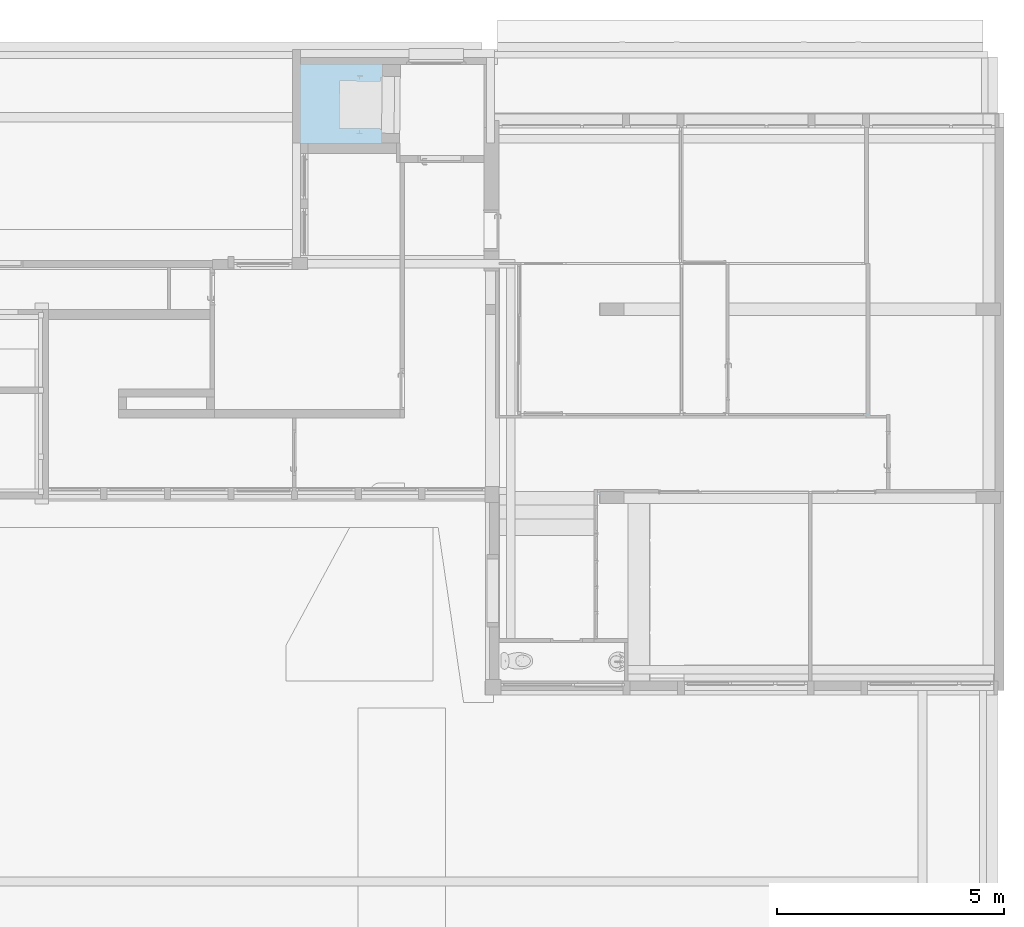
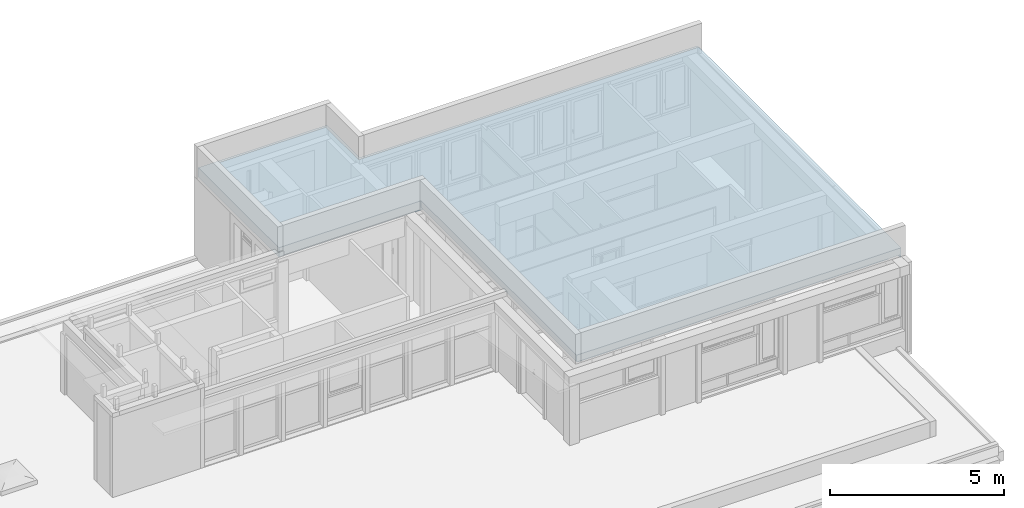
# One storey, part 38 of 49: 1 roof.
"""IFC4 building model written with IfcOpenShell, lengths in metres."""

from ifc_helpers import new_model, entity, si_unit, converted_unit, derived_unit, direction, frame, origin, place, context, subcontext, project, spatial, polygons, material, layer, layer_set, type_object, element, save


model = new_model("IFC4")

# Units and contexts
model_context = context("Model", 3, precision=1e-05, world=origin(), true_north=direction((6.12303176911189e-17, 1.0)))
body_context = subcontext(model_context, "Body", "Model", "MODEL_VIEW")
ifc_project = project(units=[si_unit("LENGTHUNIT", "METRE"), si_unit("AREAUNIT", "SQUARE_METRE"), si_unit("VOLUMEUNIT", "CUBIC_METRE"), converted_unit("PLANEANGLEUNIT", "DEGREE", entity("IfcRatioMeasure", 0.0174532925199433), si_unit("PLANEANGLEUNIT", "RADIAN"), dimensions=[0, 0, 0, 0, 0, 0, 0]), si_unit("MASSUNIT", "GRAM", prefix="KILO"), derived_unit("MASSDENSITYUNIT", [(si_unit("MASSUNIT", "GRAM", prefix="KILO"), 1), (si_unit("LENGTHUNIT", "METRE"), -3)]), derived_unit("MOMENTOFINERTIAUNIT", [(si_unit("LENGTHUNIT", "METRE"), 4)]), si_unit("TIMEUNIT", "SECOND"), si_unit("FREQUENCYUNIT", "HERTZ"), si_unit("THERMODYNAMICTEMPERATUREUNIT", "DEGREE_CELSIUS"), derived_unit("THERMALTRANSMITTANCEUNIT", [(si_unit("MASSUNIT", "GRAM", prefix="KILO"), 1), (si_unit("THERMODYNAMICTEMPERATUREUNIT", "KELVIN"), -1), (si_unit("TIMEUNIT", "SECOND"), -3)]), derived_unit("VOLUMETRICFLOWRATEUNIT", [(si_unit("LENGTHUNIT", "METRE"), 3), (si_unit("TIMEUNIT", "SECOND"), -1)]), si_unit("ELECTRICCURRENTUNIT", "AMPERE"), si_unit("ELECTRICVOLTAGEUNIT", "VOLT"), si_unit("POWERUNIT", "WATT"), si_unit("FORCEUNIT", "NEWTON", prefix="KILO"), si_unit("ILLUMINANCEUNIT", "LUX"), si_unit("LUMINOUSFLUXUNIT", "LUMEN"), si_unit("LUMINOUSINTENSITYUNIT", "CANDELA"), derived_unit("USERDEFINED", [(si_unit("MASSUNIT", "GRAM", prefix="KILO"), -1), (si_unit("LENGTHUNIT", "METRE"), -2), (si_unit("TIMEUNIT", "SECOND"), 3), (si_unit("LUMINOUSFLUXUNIT", "LUMEN"), 1)]), derived_unit("LINEARVELOCITYUNIT", [(si_unit("LENGTHUNIT", "METRE"), 1), (si_unit("TIMEUNIT", "SECOND"), -1)]), si_unit("PRESSUREUNIT", "PASCAL"), derived_unit("USERDEFINED", [(si_unit("LENGTHUNIT", "METRE"), -2), (si_unit("MASSUNIT", "GRAM", prefix="KILO"), 1), (si_unit("TIMEUNIT", "SECOND"), -2)]), derived_unit("LINEARFORCEUNIT", [(si_unit("MASSUNIT", "GRAM", prefix="KILO"), 1), (si_unit("LENGTHUNIT", "METRE"), 1), (si_unit("TIMEUNIT", "SECOND"), -2), (si_unit("LENGTHUNIT", "METRE"), -1)]), derived_unit("PLANARFORCEUNIT", [(si_unit("MASSUNIT", "GRAM", prefix="KILO"), 1), (si_unit("LENGTHUNIT", "METRE"), 1), (si_unit("TIMEUNIT", "SECOND"), -2), (si_unit("LENGTHUNIT", "METRE"), -2)])], contexts=[model_context])

# Site, building, storey
site_placement = place(None, origin())
site = spatial("IfcSite", under=ifc_project, at=site_placement, Name="Default", CompositionType="ELEMENT")
building_placement = place(site_placement, origin())
building = spatial("IfcBuilding", under=site, at=building_placement, Name="HOTEL CONSULAIRE BOULOGNE SUR MER", CompositionType="ELEMENT")
storey_placement = place(building_placement, frame((0.0, 0.0, 6.81974152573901)))
storey = spatial("IfcBuildingStorey", under=building, at=storey_placement, Name="Niveau 2", CompositionType="ELEMENT", Elevation=6.81974152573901)

# Roof
ifc_material_1 = material(Name="Protection humidité", Category="Isolation")
ifc_layer_1 = layer(ifc_material_1, 0.03, Name="Protection humidité", Category="Isolation")
ifc_material_2 = material(Name="Maçonnerie - Isolant", Category="Divers")
ifc_layer_2 = layer(ifc_material_2, 0.1, Name="Maçonnerie - Isolant", Category="Divers")
ifc_material_3 = material(Name="Béton - Béton coulé sur place", Category="Béton")
ifc_layer_3 = layer(ifc_material_3, 0.2, Name="Béton - Béton coulé sur place", Category="Béton")
ifc_layer_set = layer_set([ifc_layer_1, ifc_layer_2, ifc_layer_3], Name="Toit de base:Toit - 200 mm 2")
roof_type = type_object("IfcRoofType", Name="Toit de base:Toit - 200 mm 2", PredefinedType="NOTDEFINED")
roof_placement = place(storey_placement, frame((7.21898026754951, -23.5721980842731, 2.95700000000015)))
element("IfcRoof", 1, at=roof_placement, inside=storey, type_object=roof_type, material=ifc_layer_set, Name="Toit de base:Toit - 200 mm 2", ObjectType="Toit de base:Toit - 200 mm 2", PredefinedType="NOTDEFINED", context=body_context, shape_type="Tessellation", body=[
    polygons([(15.4789556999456, 11.691, 2.16573425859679e-15), (15.4789556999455, 3.92904228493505, 2.16573425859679e-15), (15.4789556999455, 0.0, 2.16573425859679e-15), (15.4396580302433, 0.0, 2.16573425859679e-15), (15.4396580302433, 3.65628827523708, 2.16573425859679e-15), (15.4396580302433, 3.92628827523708, 2.16573425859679e-15), (15.4396580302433, 3.92904228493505, 2.16573425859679e-15), (15.4396580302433, 7.80428827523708, 2.16573425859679e-15), (15.4396580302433, 8.07428827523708, 2.16573425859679e-15), (15.4396580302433, 11.691, 2.16573425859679e-15), (15.1196580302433, 0.0900000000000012, 0.0949999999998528), (15.1196580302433, 0.0900000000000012, 2.16573425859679e-15), (15.1196580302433, 3.65628827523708, 2.16573425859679e-15), (15.1196580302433, 3.65628827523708, 0.0949999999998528), (15.1196580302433, 7.80428827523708, 2.16573425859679e-15), (15.1196580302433, 7.80428827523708, 0.0949999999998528), (15.1196580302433, 3.92628827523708, 0.0949999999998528), (15.1196580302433, 3.92628827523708, 2.16573425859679e-15), (15.1196580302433, 3.96904228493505, 2.16573425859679e-15), (6.49720277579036e-15, 13.5718739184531, 2.16573425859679e-15), (4.27197830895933, 13.5718739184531, 2.16573425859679e-15), (4.27197830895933, 13.4818739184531, 2.16573425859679e-15), (4.27197830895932, 11.9357742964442, 2.16573425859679e-15), (4.18197830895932, 11.9357742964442, 2.16573425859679e-15), (4.18197830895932, 11.601, 2.16573425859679e-15), (8.44209559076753, 11.601, 2.16573425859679e-15), (8.51209559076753, 11.601, 2.16573425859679e-15), (15.1196580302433, 11.601, 2.16573425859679e-15), (15.1196580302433, 8.07428827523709, 2.16573425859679e-15), (12.6330955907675, 8.07428827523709, 2.16573425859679e-15), (12.5430955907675, 8.07428827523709, 2.16573425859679e-15), (9.52809559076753, 8.0742882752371, 2.16573425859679e-15), (9.45809559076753, 8.0742882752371, 2.16573425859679e-15), (8.51209559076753, 8.07428827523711, 2.16573425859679e-15), (8.44209559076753, 8.07428827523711, 2.16573425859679e-15), (6.67074541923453, 8.07428827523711, 2.16573425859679e-15), (6.67074541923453, 7.80428827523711, 2.16573425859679e-15), (8.44209559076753, 7.8042882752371, 2.16573425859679e-15), (8.51209559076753, 7.8042882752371, 2.16573425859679e-15), (9.45809559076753, 7.8042882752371, 2.16573425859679e-15), (9.52809559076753, 7.8042882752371, 2.16573425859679e-15), (12.5430955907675, 7.80428827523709, 2.16573425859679e-15), (12.6330955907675, 7.80428827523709, 2.16573425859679e-15), (12.757376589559, 3.92628827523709, 2.16573425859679e-15), (7.97082682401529, 3.92628827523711, 2.16573425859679e-15), (6.67074541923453, 3.92628827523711, 2.16573425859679e-15), (6.67074541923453, 3.88904228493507, 2.16573425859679e-15), (6.67074541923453, 3.65628827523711, 2.16573425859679e-15), (11.2787067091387, 3.6562882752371, 2.16573425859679e-15), (11.3487067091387, 3.6562882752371, 2.16573425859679e-15), (11.3487067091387, 0.0900000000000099, 2.16573425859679e-15), (11.2787067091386, 0.0900000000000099, 2.16573425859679e-15), (7.30292843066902, 0.0900000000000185, 2.16573425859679e-15), (7.22292843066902, 0.0900000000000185, 2.16573425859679e-15), (4.80796326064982, 0.0900000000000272, 2.16573425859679e-15), (4.80796326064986, 5.54731055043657, 2.16573425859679e-15), (4.80796326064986, 5.59731055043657, 2.16573425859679e-15), (4.80796326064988, 8.92077429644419, 2.16573425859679e-15), (4.80796326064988, 8.93911115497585, 2.16573425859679e-15), (4.46292843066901, 8.93911115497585, 2.16573425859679e-15), (0.0899999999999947, 8.93911115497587, 2.16573425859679e-15), (-1.08286712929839e-15, 8.93911115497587, 2.16573425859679e-15), (-1.08286712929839e-15, 9.00928716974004, 2.16573425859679e-15), (6.49720277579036e-15, 13.4818739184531, 2.16573425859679e-15), (4.27197830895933, 13.5718739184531, 0.330000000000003), (6.49720277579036e-15, 13.5718739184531, 0.330000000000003), (6.49720277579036e-15, 13.4818739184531, 0.330000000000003), (-1.08286712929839e-15, 8.93911115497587, 0.330000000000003), (0.0899999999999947, 8.93911115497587, 0.330000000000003), (4.71796326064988, 8.93911115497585, 0.330000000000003), (4.71796326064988, 8.84911115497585, 0.330000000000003), (4.71796326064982, 2.59888111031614e-14, 0.330000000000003), (4.80796326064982, 2.59888111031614e-14, 0.330000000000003), (15.4789556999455, 0.0, 0.330000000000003), (15.4789556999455, 0.0900000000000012, 0.330000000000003), (15.4789556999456, 11.601, 0.330000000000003), (15.4789556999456, 11.691, 0.330000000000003), (4.36197830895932, 11.691, 0.330000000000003), (4.27197830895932, 11.691, 0.330000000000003), (4.27197830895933, 13.4818739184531, 0.330000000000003), (-1.08286712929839e-15, 8.93911115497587, 0.269999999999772), (4.80796326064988, 8.93911115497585, 0.0949999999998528), (4.71796326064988, 8.93911115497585, 0.0949999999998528), (4.27197830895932, 11.691, 0.0949999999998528), (4.27197830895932, 11.9357742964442, 0.0949999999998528), (15.4789556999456, 11.691, 0.0949999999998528), (15.4396580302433, 11.691, 0.0949999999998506), (4.36197830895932, 11.691, 0.0949999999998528), (15.4789556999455, 0.0, 0.0949999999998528), (4.71796326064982, 2.59888111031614e-14, 0.0949999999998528), (4.80796326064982, 2.59888111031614e-14, 0.0949999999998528), (15.4396580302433, 0.0, 0.0949999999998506), (4.71796326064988, 8.84911115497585, 0.0949999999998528), (4.80796326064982, 0.0900000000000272, 0.0949999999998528), (6.67074541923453, 3.65628827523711, 0.0949999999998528), (6.67074541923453, 3.92628827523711, 0.0949999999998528), (6.67074541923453, 7.80428827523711, 0.0949999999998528), (6.67074541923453, 8.07428827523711, 0.0949999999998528), (15.1196580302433, 8.07428827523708, 0.0949999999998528), (15.1196580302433, 11.601, 0.0949999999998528), (4.18197830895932, 11.601, 0.0949999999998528), (4.18197830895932, 11.9357742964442, 0.0949999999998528)], [[[3, 4, 5, 6, 7, 8, 9, 10, 1, 2]], [[48, 49, 50, 13, 12, 51, 52, 53, 54, 55, 56, 57, 58, 59, 60, 61, 62, 63, 64, 20, 21, 22, 23, 24, 25, 26, 27, 28, 29, 30, 31, 32, 33, 34, 35, 36, 37, 38, 39, 40, 41, 42, 43, 15, 19, 18, 44, 45, 46, 47]], [[94, 11, 14, 95, 96, 17, 16, 97, 98, 99, 100, 101, 102, 85, 84, 88, 87, 92, 91, 90, 93, 83, 82]], [[11, 12, 13, 14]], [[19, 15, 16, 17, 18]], [[79, 84, 85, 23, 22, 21, 65, 80]], [[89, 3, 2, 1, 86, 77, 76, 75, 74]], [[101, 25, 24, 102]], [[99, 29, 28, 100]], [[37, 36, 98, 97]], [[47, 46, 96, 95, 48]], [[67, 68, 69, 70, 71, 72, 73, 74, 75, 76, 77, 78, 79, 80, 65, 66]], [[20, 64, 63, 62, 81, 68, 67, 66]], [[70, 83, 93, 90, 72, 71]], [[56, 55, 94, 82, 59, 58, 57]], [[9, 8, 7, 6, 5, 4, 92, 87, 10]], [[65, 21, 20, 66]], [[1, 10, 87, 88, 84, 79, 78, 77, 86]], [[26, 25, 101, 100, 28, 27]], [[39, 38, 37, 97, 16, 15, 43, 42, 41, 40]], [[13, 50, 49, 48, 95, 14]], [[62, 61, 60, 59, 82, 83, 70, 69, 68, 81]], [[90, 91, 92, 4, 3, 89, 74, 73, 72]], [[11, 94, 55, 54, 53, 52, 51, 12]], [[102, 24, 23, 85]], [[98, 36, 35, 34, 33, 32, 31, 30, 29, 99]], [[17, 96, 46, 45, 44, 18]]], closed=True),
])

save(model, "model.ifc")
